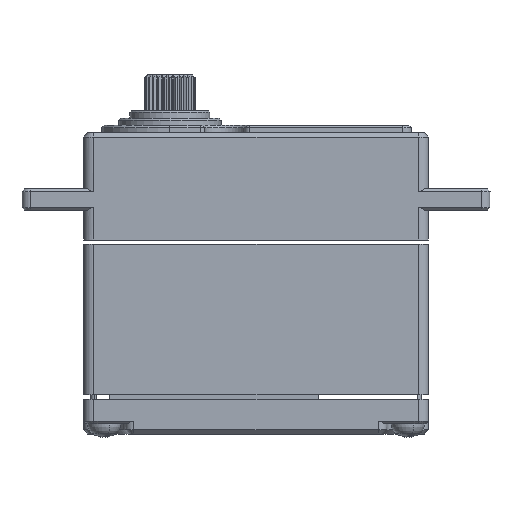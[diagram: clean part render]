
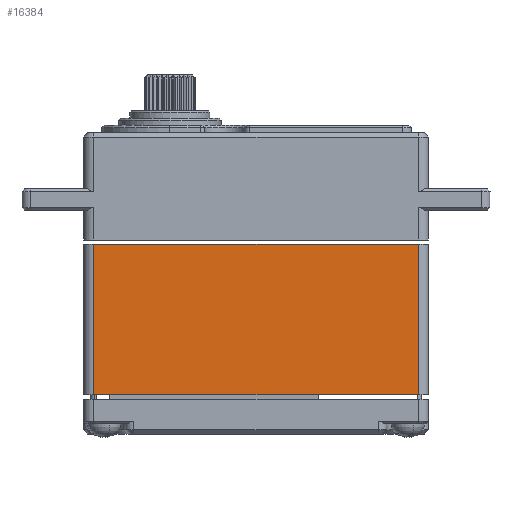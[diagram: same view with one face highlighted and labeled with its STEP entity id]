
A CAD part, front view. The second image highlights one B-rep face of the part: STEP entity #16384.
In plain terms, the highlighted planar face has unit normal (0, -1, 0).
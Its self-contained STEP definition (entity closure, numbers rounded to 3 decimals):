
#904 = CARTESIAN_POINT ( 'NONE',  ( 7.732, -10.549, 6.95 ) ) ;
#2581 = CARTESIAN_POINT ( 'NONE',  ( 7.732, -10.549, -10.75 ) ) ;
#2675 = EDGE_CURVE ( 'NONE', #11331, #20783, #3288, .T. ) ;
#3288 = LINE ( 'NONE', #18688, #10466 ) ;
#3617 = LINE ( 'NONE', #11418, #9290 ) ;
#4754 = CARTESIAN_POINT ( 'NONE',  ( 45.832, -10.549, 6.95 ) ) ;
#5326 = ORIENTED_EDGE ( 'NONE', *, *, #6312, .T. ) ;
#5490 = VECTOR ( 'NONE', #19803, 1000. ) ;
#5800 = VERTEX_POINT ( 'NONE', #7557 ) ;
#6037 = ORIENTED_EDGE ( 'NONE', *, *, #17225, .T. ) ;
#6312 = EDGE_CURVE ( 'NONE', #16420, #5800, #18239, .T. ) ;
#7435 = PLANE ( 'NONE',  #7669 ) ;
#7557 = CARTESIAN_POINT ( 'NONE',  ( 45.832, -10.549, -10.75 ) ) ;
#7669 = AXIS2_PLACEMENT_3D ( 'NONE', #9092, #20442, #10695 ) ;
#8059 = DIRECTION ( 'NONE',  ( 0., 0., -1. ) ) ;
#9092 = CARTESIAN_POINT ( 'NONE',  ( 45.832, -10.549, 6.95 ) ) ;
#9290 = VECTOR ( 'NONE', #8059, 1000. ) ;
#10466 = VECTOR ( 'NONE', #12264, 1000. ) ;
#10695 = DIRECTION ( 'NONE',  ( 0., 0., -1. ) ) ;
#11331 = VERTEX_POINT ( 'NONE', #4754 ) ;
#11418 = CARTESIAN_POINT ( 'NONE',  ( 7.732, -10.549, 6.95 ) ) ;
#11726 = EDGE_LOOP ( 'NONE', ( #5326, #20529, #12325, #6037 ) ) ;
#11766 = CARTESIAN_POINT ( 'NONE',  ( 45.832, -10.549, 6.95 ) ) ;
#12097 = LINE ( 'NONE', #11766, #20692 ) ;
#12264 = DIRECTION ( 'NONE',  ( -1., 0., 0. ) ) ;
#12325 = ORIENTED_EDGE ( 'NONE', *, *, #2675, .T. ) ;
#13391 = DIRECTION ( 'NONE',  ( 0., 0., 1. ) ) ;
#16339 = CARTESIAN_POINT ( 'NONE',  ( 45.832, -10.549, -10.75 ) ) ;
#16384 = ADVANCED_FACE ( 'NONE', ( #20246 ), #7435, .T. ) ;
#16420 = VERTEX_POINT ( 'NONE', #2581 ) ;
#17225 = EDGE_CURVE ( 'NONE', #20783, #16420, #3617, .T. ) ;
#18239 = LINE ( 'NONE', #16339, #5490 ) ;
#18688 = CARTESIAN_POINT ( 'NONE',  ( 45.832, -10.549, 6.95 ) ) ;
#19803 = DIRECTION ( 'NONE',  ( 1., 0., 0. ) ) ;
#20246 = FACE_OUTER_BOUND ( 'NONE', #11726, .T. ) ;
#20442 = DIRECTION ( 'NONE',  ( 0., -1., 0. ) ) ;
#20529 = ORIENTED_EDGE ( 'NONE', *, *, #21084, .T. ) ;
#20692 = VECTOR ( 'NONE', #13391, 1000. ) ;
#20783 = VERTEX_POINT ( 'NONE', #904 ) ;
#21084 = EDGE_CURVE ( 'NONE', #5800, #11331, #12097, .T. ) ;
